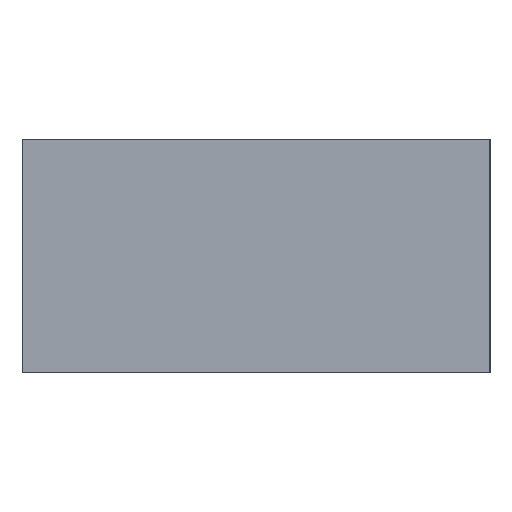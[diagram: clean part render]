
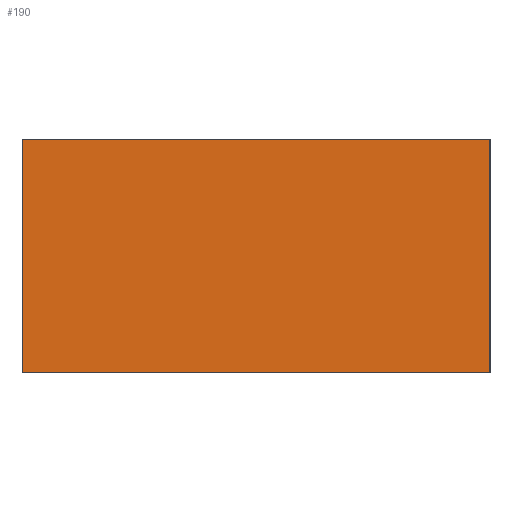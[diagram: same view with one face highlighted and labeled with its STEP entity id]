
A CAD part, left-side view. The second image highlights one B-rep face of the part: STEP entity #190.
In plain terms, the highlighted planar face has unit normal (-1, 0, 0).
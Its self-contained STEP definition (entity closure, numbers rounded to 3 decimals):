
#10 = CARTESIAN_POINT ( 'NONE',  ( -217.5, -24., -12. ) ) ;
#12 = PLANE ( 'NONE',  #41 ) ;
#13 = EDGE_CURVE ( 'NONE', #69, #70, #116, .T. ) ;
#27 = CARTESIAN_POINT ( 'NONE',  ( -217.5, 24., -12. ) ) ;
#30 = LINE ( 'NONE', #10, #188 ) ;
#36 = VECTOR ( 'NONE', #83, 1000. ) ;
#41 = AXIS2_PLACEMENT_3D ( 'NONE', #122, #56, #94 ) ;
#44 = ORIENTED_EDGE ( 'NONE', *, *, #111, .T. ) ;
#56 = DIRECTION ( 'NONE',  ( 1., 0., 0. ) ) ;
#69 = VERTEX_POINT ( 'NONE', #117 ) ;
#70 = VERTEX_POINT ( 'NONE', #27 ) ;
#75 = LINE ( 'NONE', #138, #193 ) ;
#83 = DIRECTION ( 'NONE',  ( 0., 0., -1. ) ) ;
#88 = ORIENTED_EDGE ( 'NONE', *, *, #200, .F. ) ;
#92 = CARTESIAN_POINT ( 'NONE',  ( -217.5, -24., 12. ) ) ;
#93 = DIRECTION ( 'NONE',  ( 0., -1., 0. ) ) ;
#94 = DIRECTION ( 'NONE',  ( 0., 0., -1. ) ) ;
#107 = CARTESIAN_POINT ( 'NONE',  ( -217.5, -24., -12. ) ) ;
#109 = FACE_OUTER_BOUND ( 'NONE', #135, .T. ) ;
#111 = EDGE_CURVE ( 'NONE', #70, #170, #30, .T. ) ;
#116 = LINE ( 'NONE', #186, #36 ) ;
#117 = CARTESIAN_POINT ( 'NONE',  ( -217.5, 24., 12. ) ) ;
#122 = CARTESIAN_POINT ( 'NONE',  ( -217.5, -24., 12. ) ) ;
#126 = CARTESIAN_POINT ( 'NONE',  ( -217.5, -24., 12. ) ) ;
#135 = EDGE_LOOP ( 'NONE', ( #44, #88, #137, #153 ) ) ;
#137 = ORIENTED_EDGE ( 'NONE', *, *, #226, .F. ) ;
#138 = CARTESIAN_POINT ( 'NONE',  ( -217.5, -24., 12. ) ) ;
#153 = ORIENTED_EDGE ( 'NONE', *, *, #13, .T. ) ;
#159 = DIRECTION ( 'NONE',  ( 0., 0., -1. ) ) ;
#160 = LINE ( 'NONE', #126, #174 ) ;
#170 = VERTEX_POINT ( 'NONE', #107 ) ;
#174 = VECTOR ( 'NONE', #159, 1000. ) ;
#186 = CARTESIAN_POINT ( 'NONE',  ( -217.5, 24., 12. ) ) ;
#188 = VECTOR ( 'NONE', #93, 1000. ) ;
#190 = ADVANCED_FACE ( 'NONE', ( #109 ), #12, .F. ) ;
#193 = VECTOR ( 'NONE', #229, 1000. ) ;
#200 = EDGE_CURVE ( 'NONE', #222, #170, #160, .T. ) ;
#222 = VERTEX_POINT ( 'NONE', #92 ) ;
#226 = EDGE_CURVE ( 'NONE', #69, #222, #75, .T. ) ;
#229 = DIRECTION ( 'NONE',  ( 0., -1., 0. ) ) ;
